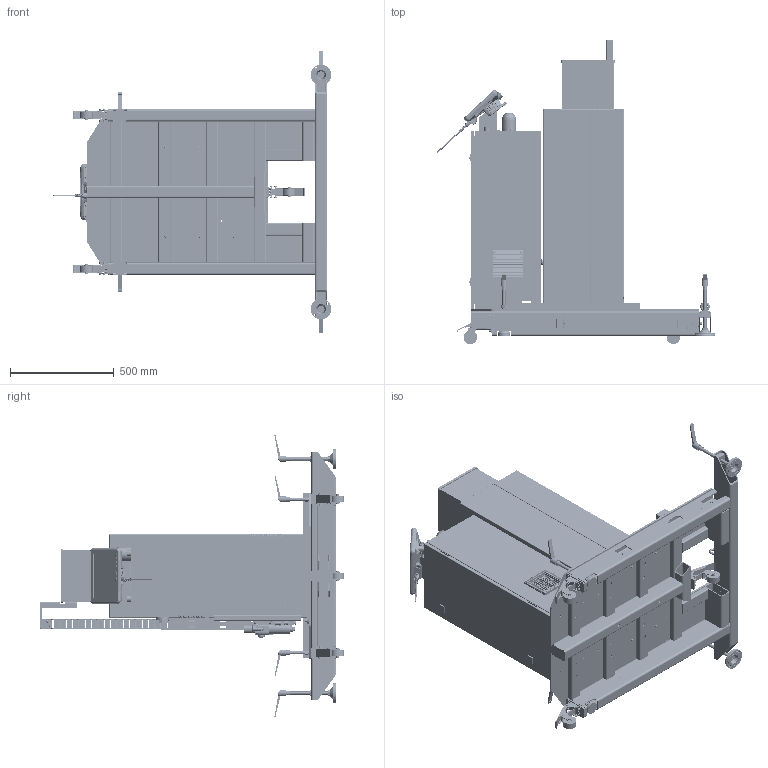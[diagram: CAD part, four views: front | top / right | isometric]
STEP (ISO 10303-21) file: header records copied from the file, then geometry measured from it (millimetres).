
FILE_DESCRIPTION (( 'STEP AP203' ), '1' );
FILE_NAME ('码垛工作站(移动底盘+升降立柱)V2.0-20260511.STEP', '2026-05-11T05:37:04', ( '' ), ( '' ), 'SwSTEP 2.0', 'SolidWorks 2018', '' );
FILE_SCHEMA (( 'CONFIG_CONTROL_DESIGN' ));
Products named in the file (2): 码垛工作站(移动底盘+升降立柱)V2.0-20260511
Bounding box: 1345 x 1468.5 x 1358 mm (x, y, z)
Surface area: 16901889.2 mm2 (no closed solid volume)
Topology: 0 solids, 381 shells, 18183 faces, 47942 edges, 30774 vertices
Faces by surface type: plane 10856, cylinder 4546, cone 1308, bspline 1276, torus 169, sphere 28
Entity records: 689236 total; most frequent: CARTESIAN_POINT 257076, ORIENTED_EDGE 95102, DIRECTION 80416, EDGE_CURVE 47650, VERTEX_POINT 30762, VECTOR 27572, LINE 27572, AXIS2_PLACEMENT_3D 26422
